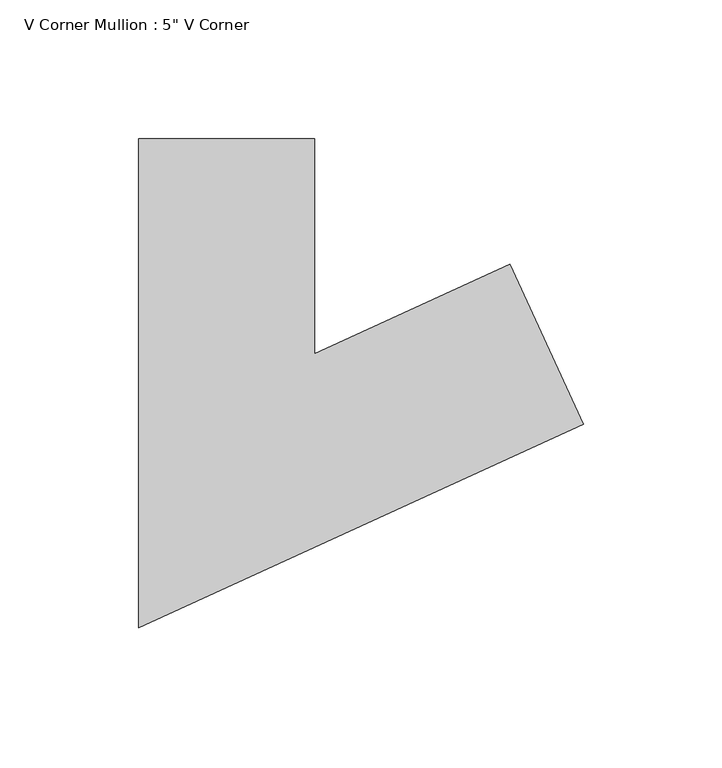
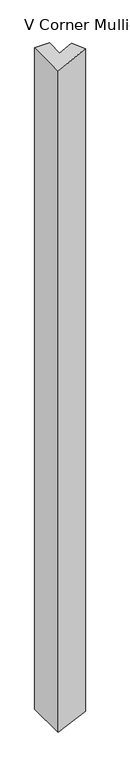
"""IFC4 building model written with IfcOpenShell, lengths in millimetres: member geometry."""

from ifc_helpers import new_model, si_unit, origin, place, context, project, spatial, faceted_brep, source, transform, mapped, element, save


def member_5f4ae004(model_context):
    return source(origin(), model_context, "Body", "Brep", [
        faceted_brep([(61.49523, 18.2208415, 1.4130603), (87.9205542, -39.5195451, 2.0202712), (87.9205542, -39.5195451, -3033.7058214), (61.49523, 18.2208415, -3033.1516416), (-9.0228811, -14.0523047, -0.2073311), (-9.0228811, -14.0523047, -3031.6727681), (-9.0228811, 63.5, -0.2073311), (-9.0228811, 63.5, -3031.6727681), (-72.5228811, 63.5, -1.6664577), (-72.5228811, 63.5, -3030.3410753), (-72.5228811, -112.9476953, -1.6664577), (-72.5228811, -112.9476953, -3030.3410753)], [[[0, 1, 2, 3]], [[4, 0, 3, 5]], [[6, 4, 5, 7]], [[8, 6, 7, 9]], [[10, 8, 9, 11]], [[1, 10, 11, 2]], [[1, 0, 4, 6, 8, 10]], [[2, 11, 9, 7, 5, 3]]]),
    ])


if __name__ == "__main__":
    model = new_model("IFC4")
    model_context = context("Model", 3, world=origin())
    ifc_project = project(units=[si_unit("LENGTHUNIT", "METRE", prefix="MILLI")], contexts=[model_context])
    site = spatial("IfcSite", under=ifc_project)
    building = spatial("IfcBuilding", under=site)
    placement = place(None, origin())
    member_shape = member_5f4ae004(model_context)
    element("IfcMember", 1, ObjectType="V Corner Mullion : 5\" V Corner", at=placement, inside=building, context=model_context, shape_type="MappedRepresentation", body=[
        mapped(member_shape, transform((0.0, 0.0, 0.0), x_axis=(1.0, 0.0, 0.0), y_axis=(0.0, 1.0, 0.0), z_axis=(0.0, 0.0, 1.0))),
    ])
    save(model, "model.ifc")
